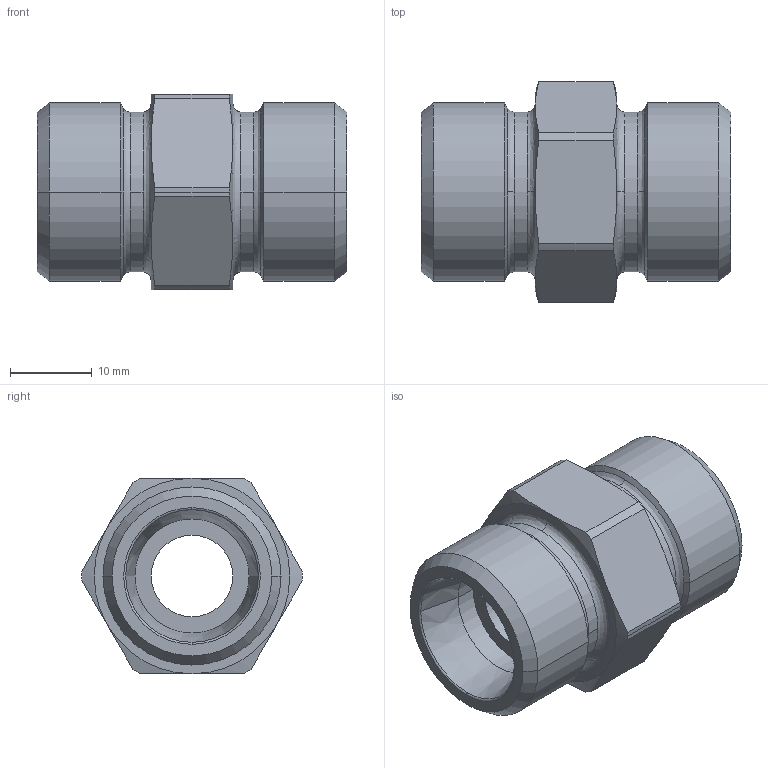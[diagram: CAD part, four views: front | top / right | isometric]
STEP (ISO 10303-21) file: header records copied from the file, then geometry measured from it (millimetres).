
FILE_DESCRIPTION((''),'2;1');
FILE_NAME('103518.stp','2007-10-31T11:32:57',(''),(''),'AutoCAD STEP 2000i','AutoCAD 2000i',', , ');
FILE_SCHEMA(('CONFIG_CONTROL_DESIGN'));
Length unit declared in the file: millimetre
Products named in the file (2): 103518.0; CHIAVE SMUSSATA#0
Assembly tree (1 placements, depth 2):
  103518.0
    CHIAVE SMUSSATA#0
Bounding box: 38 x 27.1 x 24 mm (x, y, z)
Volume: 10360.8 mm3; surface area: 4899.9 mm2
Topology: 1 solids, 1 shells, 70 faces, 172 edges, 108 vertices
Faces by surface type: cone 24, cylinder 22, plane 12, bspline 8, torus 4
Entity records: 2513 total; most frequent: CARTESIAN_POINT 752, DIRECTION 384, ORIENTED_EDGE 344, AXIS2_PLACEMENT_3D 172, EDGE_CURVE 172, VERTEX_POINT 108, CIRCLE 108, EDGE_LOOP 76
